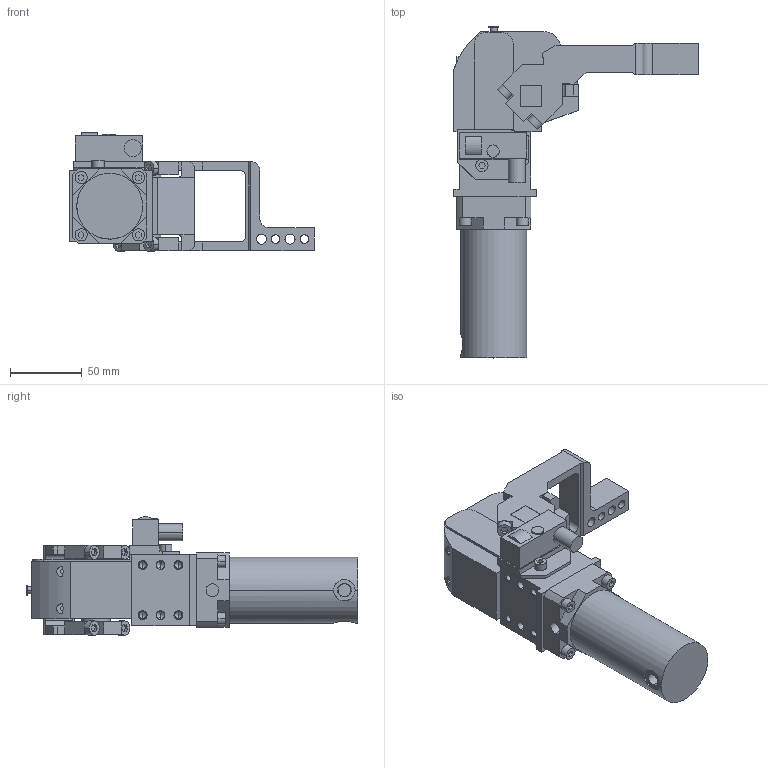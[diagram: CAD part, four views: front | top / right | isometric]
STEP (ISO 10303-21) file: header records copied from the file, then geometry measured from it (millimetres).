
FILE_DESCRIPTION (( 'STEP AP214' ), '1' );
FILE_NAME ('g40.1_gvs.STEP', '2014-03-17T09:47:57', ( 'vep' ), ( 'TOSHIBA' ), 'SwSTEP 2.0', 'SolidWorks 2013', '' );
FILE_SCHEMA (( 'AUTOMOTIVE_DESIGN' ));
Length unit declared in the file: millimetre
Products named in the file (5): g40.1_corpo; g40.1_gvs; g40.1_leva_gvs; blocchetto_p&f_90; g40.1_cilindro
Assembly tree (4 placements, depth 2):
  g40.1_gvs
    g40.1_corpo
    g40.1_cilindro
    blocchetto_p&f_90
    g40.1_leva_gvs
Bounding box: 171 x 232 x 82.8 mm (x, y, z)
Volume: 611653.3 mm3; surface area: 96466.5 mm2
Topology: 4 solids, 4 shells, 452 faces, 1156 edges, 719 vertices
Faces by surface type: plane 297, cylinder 103, cone 52
Entity records: 14686 total; most frequent: CARTESIAN_POINT 2544, DIRECTION 2324, ORIENTED_EDGE 2264, EDGE_CURVE 1132, LINE 834, VECTOR 834, AXIS2_PLACEMENT_3D 745, VERTEX_POINT 719
